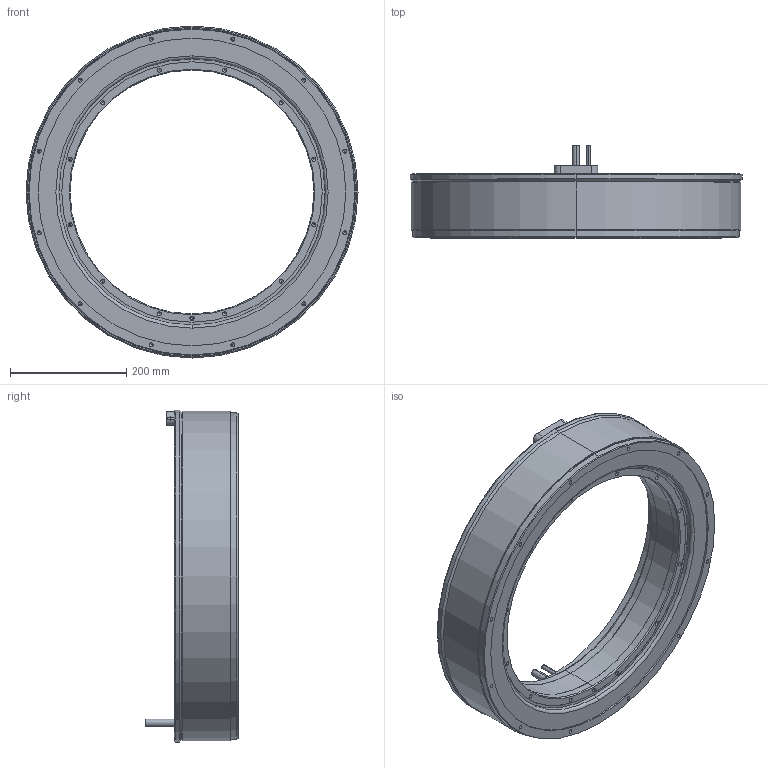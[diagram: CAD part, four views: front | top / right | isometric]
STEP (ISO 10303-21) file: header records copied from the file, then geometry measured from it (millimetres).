
FILE_DESCRIPTION (( 'STEP AP203' ), '1' );
FILE_NAME ('TM-2-G7-PB0(J0).STEP', '2023-06-06T05:07:52', ( '' ), ( '' ), 'SwSTEP 2.0', 'SolidWorks 2015', '' );
FILE_SCHEMA (( 'CONFIG_CONTROL_DESIGN' ));
Length unit declared in the file: millimetre
Products named in the file (3): TM-2-G7-PB0(J0)_Stator; TM-2-G7(J0)_Rotor; TM-2-G7-PB0(J0)
Assembly tree (2 placements, depth 2):
  TM-2-G7-PB0(J0)
    TM-2-G7-PB0(J0)_Stator
    TM-2-G7(J0)_Rotor
Bounding box: 572 x 159 x 572 mm (x, y, z)
Volume: 11246516.1 mm3; surface area: 812999.3 mm2
Topology: 2 solids, 2 shells, 343 faces, 816 edges, 445 vertices
Faces by surface type: cylinder 158, cone 126, plane 51, torus 8
Entity records: 9431 total; most frequent: DIRECTION 1760, CARTESIAN_POINT 1503, ORIENTED_EDGE 1420, EDGE_CURVE 710, AXIS2_PLACEMENT_3D 702, VERTEX_POINT 445, EDGE_LOOP 421, VECTOR 356
